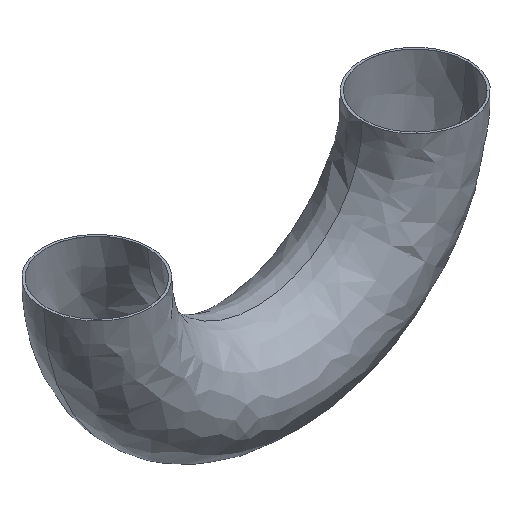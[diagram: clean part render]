
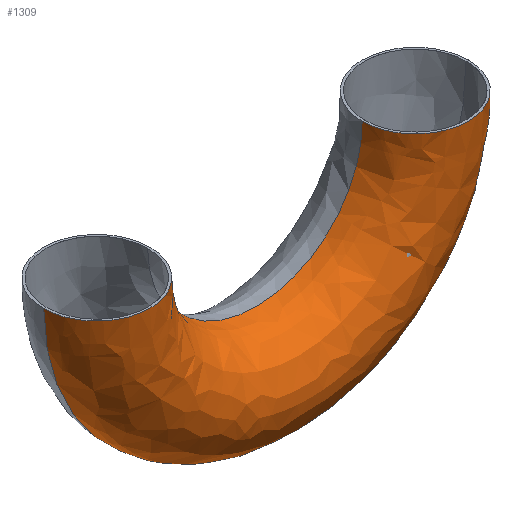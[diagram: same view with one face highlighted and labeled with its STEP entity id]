
A CAD part, isometric view. The second image highlights one B-rep face of the part: STEP entity #1309.
In plain terms, the highlighted free-form (B-spline) face has degree [3, 3] with [4, 4] control points.
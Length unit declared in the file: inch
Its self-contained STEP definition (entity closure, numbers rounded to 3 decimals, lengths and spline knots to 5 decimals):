
#295 = CARTESIAN_POINT ( 'NONE',  ( -1.41944, -3., -5.99964 ) ) ;
#314 = AXIS2_PLACEMENT_3D ( 'NONE', #824, #3991, #1285 ) ;
#619 = CARTESIAN_POINT ( 'NONE',  ( -1.41944, 0., -5.99964 ) ) ;
#632 = EDGE_CURVE ( 'NONE', #4862, #2699, #2394, .T. ) ;
#764 = CARTESIAN_POINT ( 'NONE',  ( -10.49964, -3., -0.08056 ) ) ;
#824 = CARTESIAN_POINT ( 'NONE',  ( -8.99964, 0., -0.08056 ) ) ;
#915 = CARTESIAN_POINT ( 'NONE',  ( -7.49964, 0., -0.08056 ) ) ;
#1040 = DIRECTION ( 'NONE',  ( -1., 0., -0.013 ) ) ;
#1056 = EDGE_CURVE ( 'NONE', #2699, #1338, #2672, .T. ) ;
#1060 = DIRECTION ( 'NONE',  ( 0., -1., 0. ) ) ;
#1080 = CARTESIAN_POINT ( 'NONE',  ( -4.49982, 0., -0.04028 ) ) ;
#1211 = CARTESIAN_POINT ( 'NONE',  ( -4.49982, 0., -0.04028 ) ) ;
#1225 = CARTESIAN_POINT ( 'NONE',  ( 1.58056, -3., -11.99964 ) ) ;
#1285 = DIRECTION ( 'NONE',  ( -1., 0., 0. ) ) ;
#1286 = ORIENTED_EDGE ( 'NONE', *, *, #1056, .F. ) ;
#1309 = ADVANCED_FACE ( 'NONE', ( #4786 ), #4980, .T. ) ;
#1328 = EDGE_LOOP ( 'NONE', ( #2563, #4772, #3405, #1286 ) ) ;
#1338 = VERTEX_POINT ( 'NONE', #3956 ) ;
#1543 = DIRECTION ( 'NONE',  ( 0., 0., 1. ) ) ;
#1665 = CARTESIAN_POINT ( 'NONE',  ( -7.41908, 0., -6.0802 ) ) ;
#1673 = DIRECTION ( 'NONE',  ( -1., 0., -0.007 ) ) ;
#1686 = CARTESIAN_POINT ( 'NONE',  ( -10.49964, 0., -0.08056 ) ) ;
#1924 = AXIS2_PLACEMENT_3D ( 'NONE', #1211, #4367, #1673 ) ;
#2118 = CARTESIAN_POINT ( 'NONE',  ( -7.49964, 0., -0.08056 ) ) ;
#2139 = CARTESIAN_POINT ( 'NONE',  ( 1.58056, 0., -11.99964 ) ) ;
#2227 = EDGE_CURVE ( 'NONE', #4862, #4868, #2836, .T. ) ;
#2394 = CIRCLE ( 'NONE', #4486, 3.00009 ) ;
#2563 = ORIENTED_EDGE ( 'NONE', *, *, #632, .F. ) ;
#2577 = CARTESIAN_POINT ( 'NONE',  ( -1.5, 0., 0. ) ) ;
#2672 = CIRCLE ( 'NONE', #4072, 1.5 ) ;
#2699 = VERTEX_POINT ( 'NONE', #4431 ) ;
#2836 = CIRCLE ( 'NONE', #314, 1.5 ) ;
#3030 = CARTESIAN_POINT ( 'NONE',  ( -7.41908, -3., -6.0802 ) ) ;
#3405 = ORIENTED_EDGE ( 'NONE', *, *, #5794, .T. ) ;
#3483 = CARTESIAN_POINT ( 'NONE',  ( -1.5, -3., 0. ) ) ;
#3628 = CARTESIAN_POINT ( 'NONE',  ( -10.49964, 0., -0.08056 ) ) ;
#3936 = CARTESIAN_POINT ( 'NONE',  ( -10.41908, -3., -12.0802 ) ) ;
#3956 = CARTESIAN_POINT ( 'NONE',  ( 1.5, 0., 0. ) ) ;
#3977 = CIRCLE ( 'NONE', #1924, 5.99995 ) ;
#3991 = DIRECTION ( 'NONE',  ( 0., 0., -1. ) ) ;
#4072 = AXIS2_PLACEMENT_3D ( 'NONE', #4241, #1543, #4678 ) ;
#4241 = CARTESIAN_POINT ( 'NONE',  ( 0., 0., 0. ) ) ;
#4367 = DIRECTION ( 'NONE',  ( 0., -1., 0. ) ) ;
#4379 = CARTESIAN_POINT ( 'NONE',  ( 1.5, -3., 0. ) ) ;
#4431 = CARTESIAN_POINT ( 'NONE',  ( -1.5, 0., 0. ) ) ;
#4486 = AXIS2_PLACEMENT_3D ( 'NONE', #1080, #1060, #1040 ) ;
#4678 = DIRECTION ( 'NONE',  ( 1., 0., 0. ) ) ;
#4772 = ORIENTED_EDGE ( 'NONE', *, *, #2227, .T. ) ;
#4786 = FACE_OUTER_BOUND ( 'NONE', #1328, .T. ) ;
#4822 = CARTESIAN_POINT ( 'NONE',  ( -10.41908, 0., -12.0802 ) ) ;
#4862 = VERTEX_POINT ( 'NONE', #915 ) ;
#4868 = VERTEX_POINT ( 'NONE', #3628 ) ;
#4980 =( BOUNDED_SURFACE ( )  B_SPLINE_SURFACE ( 3, 3, ( 
 ( #2118, #1665, #619, #2577 ),
 ( #5707, #3030, #295, #3483 ),
 ( #764, #3936, #1225, #4379 ),
 ( #1686, #4822, #2139, #5277 ) ),
 .UNSPECIFIED., .F., .F., .F. ) 
 B_SPLINE_SURFACE_WITH_KNOTS ( ( 4, 4 ),
 ( 4, 4 ),
 ( 0., 1. ),
 ( 0., 1. ),
 .UNSPECIFIED. ) 
 GEOMETRIC_REPRESENTATION_ITEM ( )  RATIONAL_B_SPLINE_SURFACE ( (
 ( 1., 0.333, 0.333, 1.),
 ( 0.333, 0.111, 0.111, 0.333),
 ( 0.333, 0.111, 0.111, 0.333),
 ( 1., 0.333, 0.333, 1.) ) ) 
 REPRESENTATION_ITEM ( '' )  SURFACE ( )  );
#5277 = CARTESIAN_POINT ( 'NONE',  ( 1.5, 0., 0. ) ) ;
#5707 = CARTESIAN_POINT ( 'NONE',  ( -7.49964, -3., -0.08056 ) ) ;
#5794 = EDGE_CURVE ( 'NONE', #4868, #1338, #3977, .T. ) ;
